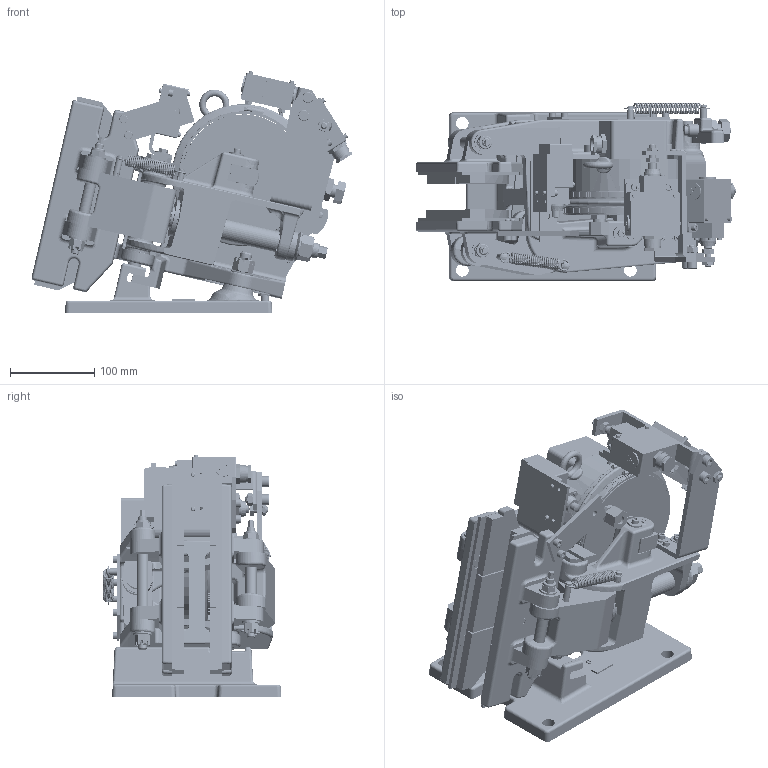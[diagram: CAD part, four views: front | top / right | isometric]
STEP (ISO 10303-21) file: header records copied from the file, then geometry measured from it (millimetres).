
FILE_DESCRIPTION((''),'2;1');
FILE_NAME('DA_505_FEM_SW0001','2026-09-11T10:27:33',('MAPM'),(''),'CREO PARAMETRIC BY PTC INC, 2025102','CREO PARAMETRIC BY PTC INC, 2025102','');
FILE_SCHEMA(('CONFIG_CONTROL_DESIGN','SHAPE_APPEARANCE_LAYERS_GROUPS'));
Products named in the file (1): DA_505_FEM_SW0001
Bounding box: 381.96 x 212.82 x 288.3 mm (x, y, z)
Volume: 4480393.6 mm3; surface area: 986368.7 mm2
Topology: 12 solids, 13 shells, 6321 faces, 15943 edges, 10061 vertices
Faces by surface type: plane 3144, cylinder 1779, cone 469, bspline 416, torus 246, extrusion 148, sphere 119
Entity records: 348435 total; most frequent: CARTESIAN_POINT 106967, ORIENTED_EDGE 31554, DIRECTION 30102, PRESENTATION_STYLE_ASSIGNMENT 22259, STYLED_ITEM 15938, CURVE_STYLE 15925, EDGE_CURVE 15777, AXIS2_PLACEMENT_3D 10960
